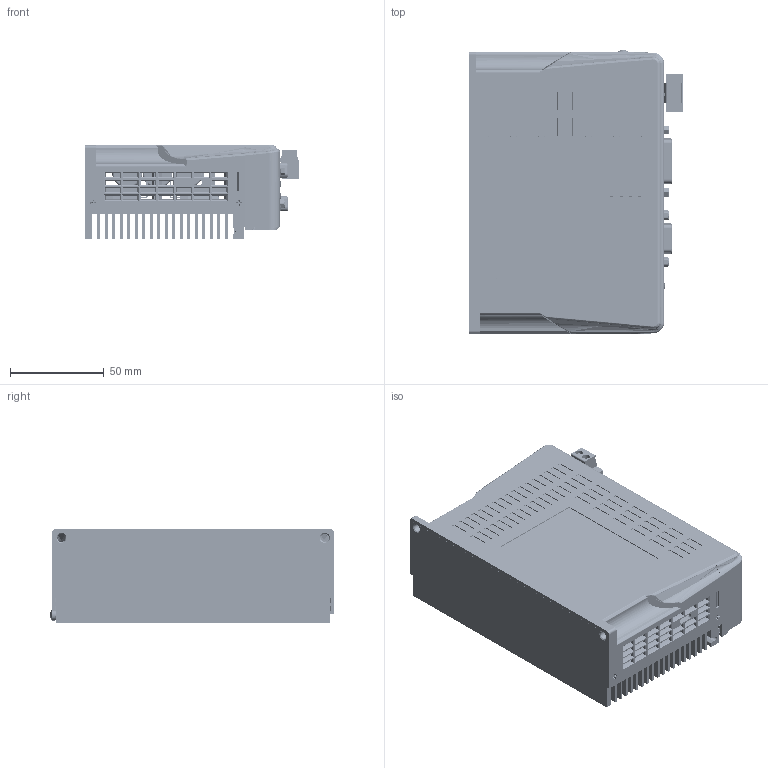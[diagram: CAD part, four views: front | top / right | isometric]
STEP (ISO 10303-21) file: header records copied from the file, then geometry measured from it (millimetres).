
FILE_DESCRIPTION (( 'STEP AP203' ), '1' );
FILE_NAME ('MCAC825.STEP', '2021-06-30T02:51:01', ( 'USER-' ), ( 'MS' ), 'SwSTEP 2.0', 'SolidWorks 2018', '' );
FILE_SCHEMA (( 'CONFIG_CONTROL_DESIGN' ));
Length unit declared in the file: millimetre
Products named in the file (76): MCAC825.sldasm-Part-35; MCAC825; MCAC825.sldasm-Part-27; MCAC825.sldasm-Part-68; MCAC825.sldasm-Part-19; MCAC825.sldasm-Part-60; MCAC825.sldasm-Part-11; MCAC825.sldasm-Part-52; MCAC825.sldasm-Part-3; MCAC825.sldasm-Part-44; MCAC825.sldasm-Part-36; MCAC825.sldasm-Part-28; MCAC825.sldasm-Part-69; MCAC825.sldasm-Part-20; MCAC825.sldasm-Part-61; MCAC825.sldasm-Part-12; MCAC825.sldasm-Part-53; MCAC825.sldasm-Part-4; MCAC825.sldasm-Part-45; MCAC825.sldasm-Part-37; MCAC825.sldasm-Part-29; MCAC825.sldasm-Part-70; MCAC825.sldasm-Part-21; MCAC825.sldasm-Part-62; MCAC825.sldasm-Part-13; MCAC825.sldasm-Part-54; MCAC825.sldasm-Part-5; MCAC825.sldasm-Part-46; MCAC825.sldasm-Part-38; MCAC825.sldasm-Part-30; MCAC825.sldasm-Part-71; MCAC825.sldasm-Part-22; MCAC825.sldasm-Part-63; MCAC825.sldasm-Part-14; MCAC825.sldasm-Part-55; MCAC825.sldasm-Part-6; MCAC825.sldasm-Part-47; MCAC825.sldasm-Part-39; MCAC825.sldasm-Part-31; MCAC825.sldasm-Part-72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
Assembly tree (75 placements, depth 2):
  MCAC825
    MCAC825.sldasm-Part-1
    MCAC825.sldasm-Part-2
    MCAC825.sldasm-Part-3
    MCAC825.sldasm-Part-4
    MCAC825.sldasm-Part-5
    MCAC825.sldasm-Part-6
    MCAC825.sldasm-Part-7
    MCAC825.sldasm-Part-8
    MCAC825.sldasm-Part-9
    MCAC825.sldasm-Part-10
    MCAC825.sldasm-Part-11
    MCAC825.sldasm-Part-12
    MCAC825.sldasm-Part-13
    MCAC825.sldasm-Part-14
    MCAC825.sldasm-Part-15
    MCAC825.sldasm-Part-16
    MCAC825.sldasm-Part-17
    MCAC825.sldasm-Part-18
    MCAC825.sldasm-Part-19
    MCAC825.sldasm-Part-20
    MCAC825.sldasm-Part-21
    MCAC825.sldasm-Part-22
    MCAC825.sldasm-Part-23
    MCAC825.sldasm-Part-24
    MCAC825.sldasm-Part-25
    MCAC825.sldasm-Part-26
    MCAC825.sldasm-Part-27
    MCAC825.sldasm-Part-28
    MCAC825.sldasm-Part-29
    MCAC825.sldasm-Part-30
    MCAC825.sldasm-Part-31
    MCAC825.sldasm-Part-32
    MCAC825.sldasm-Part-33
    MCAC825.sldasm-Part-34
    MCAC825.sldasm-Part-35
    MCAC825.sldasm-Part-36
    MCAC825.sldasm-Part-37
    MCAC825.sldasm-Part-38
    MCAC825.sldasm-Part-39
    MCAC825.sldasm-Part-40
    MCAC825.sldasm-Part-41
    MCAC825.sldasm-Part-42
    MCAC825.sldasm-Part-43
    MCAC825.sldasm-Part-44
    MCAC825.sldasm-Part-45
    MCAC825.sldasm-Part-46
    MCAC825.sldasm-Part-47
    MCAC825.sldasm-Part-48
    MCAC825.sldasm-Part-49
    MCAC825.sldasm-Part-50
    MCAC825.sldasm-Part-51
    MCAC825.sldasm-Part-52
    MCAC825.sldasm-Part-53
    MCAC825.sldasm-Part-54
    MCAC825.sldasm-Part-55
    MCAC825.sldasm-Part-56
    MCAC825.sldasm-Part-57
    MCAC825.sldasm-Part-58
    MCAC825.sldasm-Part-59
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Bounding box: 113.95 x 151.57 x 50 mm (x, y, z)
Volume: 292955.3 mm3; surface area: 289807.4 mm2
Topology: 75 solids, 89 shells, 8598 faces, 23616 edges, 15300 vertices
Faces by surface type: plane 4525, cylinder 2667, bspline 659, cone 474, torus 203, sphere 70
Entity records: 420291 total; most frequent: CARTESIAN_POINT 206929, ORIENTED_EDGE 46592, DIRECTION 37899, EDGE_CURVE 23296, VERTEX_POINT 15265, VECTOR 14103, LINE 14103, AXIS2_PLACEMENT_3D 11898
